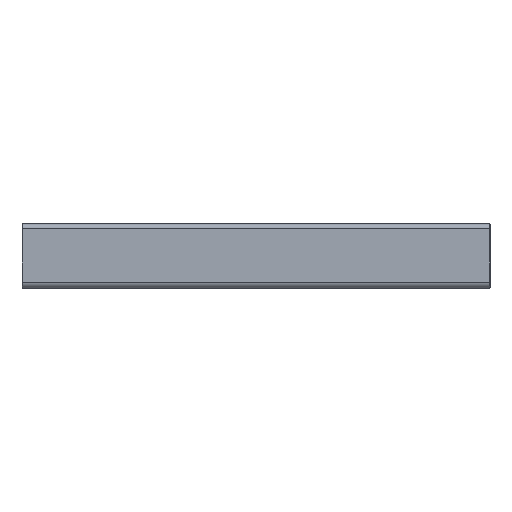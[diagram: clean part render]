
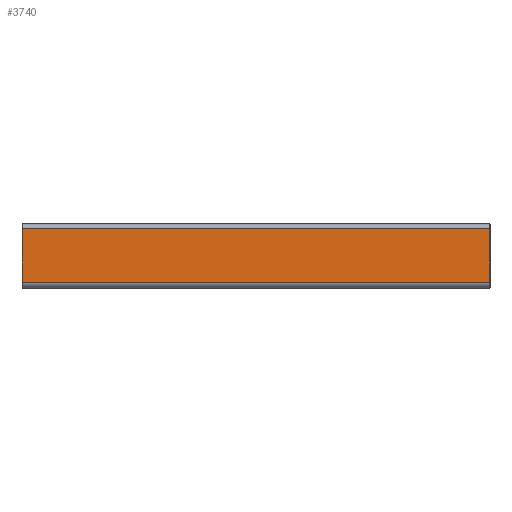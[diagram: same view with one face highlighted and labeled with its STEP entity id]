
A CAD part, top view. The second image highlights one B-rep face of the part: STEP entity #3740.
In plain terms, the highlighted planar face has unit normal (0, 0, 1).
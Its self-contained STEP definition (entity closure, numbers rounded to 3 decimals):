
#979 = PLANE('',#980);
#980 = AXIS2_PLACEMENT_3D('',#981,#982,#983);
#981 = CARTESIAN_POINT('',(-116.4,-27.,1.9));
#982 = DIRECTION('',(0.707,0.,-0.707)
  );
#983 = DIRECTION('',(0.,-1.,0.));
#1534 = PLANE('',#1535);
#1535 = AXIS2_PLACEMENT_3D('',#1536,#1537,#1538);
#1536 = CARTESIAN_POINT('',(116.4,-27.,1.9));
#1537 = DIRECTION('',(0.707,0.,0.707));
#1538 = DIRECTION('',(0.,-1.,0.));
#2048 = CYLINDRICAL_SURFACE('',#2049,2.5);
#2049 = AXIS2_PLACEMENT_3D('',#2050,#2051,#2052);
#2050 = CARTESIAN_POINT('',(-116.5,-0.5,-0.5));
#2051 = DIRECTION('',(-1.,0.,0.));
#2052 = DIRECTION('',(0.,-1.,0.));
#2411 = VERTEX_POINT('',#2412);
#2412 = CARTESIAN_POINT('',(-116.3,-0.5,2.));
#2512 = VERTEX_POINT('',#2513);
#2513 = CARTESIAN_POINT('',(-116.3,-27.,2.));
#2532 = EDGE_CURVE('',#2512,#2411,#2533,.T.);
#2533 = SURFACE_CURVE('',#2534,(#2538,#2545),.PCURVE_S1.);
#2534 = LINE('',#2535,#2536);
#2535 = CARTESIAN_POINT('',(-116.3,-27.,2.));
#2536 = VECTOR('',#2537,1.);
#2537 = DIRECTION('',(0.,1.,0.));
#2538 = PCURVE('',#979,#2539);
#2539 = DEFINITIONAL_REPRESENTATION('',(#2540),#2544);
#2540 = LINE('',#2541,#2542);
#2541 = CARTESIAN_POINT('',(-0.,-0.141));
#2542 = VECTOR('',#2543,1.);
#2543 = DIRECTION('',(-1.,0.));
#2544 = ( GEOMETRIC_REPRESENTATION_CONTEXT(2) 
PARAMETRIC_REPRESENTATION_CONTEXT() REPRESENTATION_CONTEXT('2D SPACE',''
  ) );
#2545 = PCURVE('',#2546,#2551);
#2546 = PLANE('',#2547);
#2547 = AXIS2_PLACEMENT_3D('',#2548,#2549,#2550);
#2548 = CARTESIAN_POINT('',(-116.5,-27.,2.));
#2549 = DIRECTION('',(0.,0.,1.));
#2550 = DIRECTION('',(0.,1.,0.));
#2551 = DEFINITIONAL_REPRESENTATION('',(#2552),#2556);
#2552 = LINE('',#2553,#2554);
#2553 = CARTESIAN_POINT('',(0.,-0.2));
#2554 = VECTOR('',#2555,1.);
#2555 = DIRECTION('',(1.,0.));
#2556 = ( GEOMETRIC_REPRESENTATION_CONTEXT(2) 
PARAMETRIC_REPRESENTATION_CONTEXT() REPRESENTATION_CONTEXT('2D SPACE',''
  ) );
#2651 = CYLINDRICAL_SURFACE('',#2652,3.);
#2652 = AXIS2_PLACEMENT_3D('',#2653,#2654,#2655);
#2653 = CARTESIAN_POINT('',(-116.5,-27.,-1.));
#2654 = DIRECTION('',(-1.,-0.,0.));
#2655 = DIRECTION('',(0.,1.,0.));
#3134 = VERTEX_POINT('',#3135);
#3135 = CARTESIAN_POINT('',(116.3,-0.5,2.));
#3230 = VERTEX_POINT('',#3231);
#3231 = CARTESIAN_POINT('',(116.3,-27.,2.));
#3250 = EDGE_CURVE('',#3230,#3134,#3251,.T.);
#3251 = SURFACE_CURVE('',#3252,(#3256,#3263),.PCURVE_S1.);
#3252 = LINE('',#3253,#3254);
#3253 = CARTESIAN_POINT('',(116.3,-27.,2.));
#3254 = VECTOR('',#3255,1.);
#3255 = DIRECTION('',(0.,1.,0.));
#3256 = PCURVE('',#1534,#3257);
#3257 = DEFINITIONAL_REPRESENTATION('',(#3258),#3262);
#3258 = LINE('',#3259,#3260);
#3259 = CARTESIAN_POINT('',(-0.,-0.141));
#3260 = VECTOR('',#3261,1.);
#3261 = DIRECTION('',(-1.,0.));
#3262 = ( GEOMETRIC_REPRESENTATION_CONTEXT(2) 
PARAMETRIC_REPRESENTATION_CONTEXT() REPRESENTATION_CONTEXT('2D SPACE',''
  ) );
#3263 = PCURVE('',#2546,#3264);
#3264 = DEFINITIONAL_REPRESENTATION('',(#3265),#3269);
#3265 = LINE('',#3266,#3267);
#3266 = CARTESIAN_POINT('',(0.,-232.8));
#3267 = VECTOR('',#3268,1.);
#3268 = DIRECTION('',(1.,0.));
#3269 = ( GEOMETRIC_REPRESENTATION_CONTEXT(2) 
PARAMETRIC_REPRESENTATION_CONTEXT() REPRESENTATION_CONTEXT('2D SPACE',''
  ) );
#3663 = EDGE_CURVE('',#2411,#3134,#3664,.T.);
#3664 = SURFACE_CURVE('',#3665,(#3669,#3676),.PCURVE_S1.);
#3665 = LINE('',#3666,#3667);
#3666 = CARTESIAN_POINT('',(-116.5,-0.5,2.));
#3667 = VECTOR('',#3668,1.);
#3668 = DIRECTION('',(1.,0.,0.));
#3669 = PCURVE('',#2048,#3670);
#3670 = DEFINITIONAL_REPRESENTATION('',(#3671),#3675);
#3671 = LINE('',#3672,#3673);
#3672 = CARTESIAN_POINT('',(1.571,0.));
#3673 = VECTOR('',#3674,1.);
#3674 = DIRECTION('',(0.,-1.));
#3675 = ( GEOMETRIC_REPRESENTATION_CONTEXT(2) 
PARAMETRIC_REPRESENTATION_CONTEXT() REPRESENTATION_CONTEXT('2D SPACE',''
  ) );
#3676 = PCURVE('',#2546,#3677);
#3677 = DEFINITIONAL_REPRESENTATION('',(#3678),#3682);
#3678 = LINE('',#3679,#3680);
#3679 = CARTESIAN_POINT('',(26.5,0.));
#3680 = VECTOR('',#3681,1.);
#3681 = DIRECTION('',(0.,-1.));
#3682 = ( GEOMETRIC_REPRESENTATION_CONTEXT(2) 
PARAMETRIC_REPRESENTATION_CONTEXT() REPRESENTATION_CONTEXT('2D SPACE',''
  ) );
#3740 = ADVANCED_FACE('',(#3741),#2546,.T.);
#3741 = FACE_BOUND('',#3742,.T.);
#3742 = EDGE_LOOP('',(#3743,#3764,#3765,#3766));
#3743 = ORIENTED_EDGE('',*,*,#3744,.T.);
#3744 = EDGE_CURVE('',#2512,#3230,#3745,.T.);
#3745 = SURFACE_CURVE('',#3746,(#3750,#3757),.PCURVE_S1.);
#3746 = LINE('',#3747,#3748);
#3747 = CARTESIAN_POINT('',(-116.5,-27.,2.));
#3748 = VECTOR('',#3749,1.);
#3749 = DIRECTION('',(1.,0.,0.));
#3750 = PCURVE('',#2546,#3751);
#3751 = DEFINITIONAL_REPRESENTATION('',(#3752),#3756);
#3752 = LINE('',#3753,#3754);
#3753 = CARTESIAN_POINT('',(0.,0.));
#3754 = VECTOR('',#3755,1.);
#3755 = DIRECTION('',(0.,-1.));
#3756 = ( GEOMETRIC_REPRESENTATION_CONTEXT(2) 
PARAMETRIC_REPRESENTATION_CONTEXT() REPRESENTATION_CONTEXT('2D SPACE',''
  ) );
#3757 = PCURVE('',#2651,#3758);
#3758 = DEFINITIONAL_REPRESENTATION('',(#3759),#3763);
#3759 = LINE('',#3760,#3761);
#3760 = CARTESIAN_POINT('',(-1.571,0.));
#3761 = VECTOR('',#3762,1.);
#3762 = DIRECTION('',(-0.,-1.));
#3763 = ( GEOMETRIC_REPRESENTATION_CONTEXT(2) 
PARAMETRIC_REPRESENTATION_CONTEXT() REPRESENTATION_CONTEXT('2D SPACE',''
  ) );
#3764 = ORIENTED_EDGE('',*,*,#3250,.T.);
#3765 = ORIENTED_EDGE('',*,*,#3663,.F.);
#3766 = ORIENTED_EDGE('',*,*,#2532,.F.);
